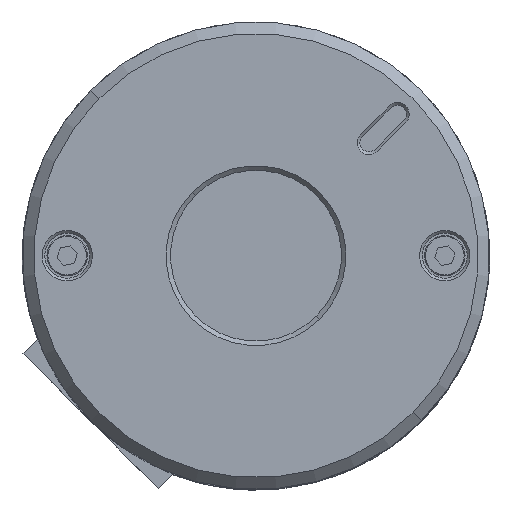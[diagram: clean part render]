
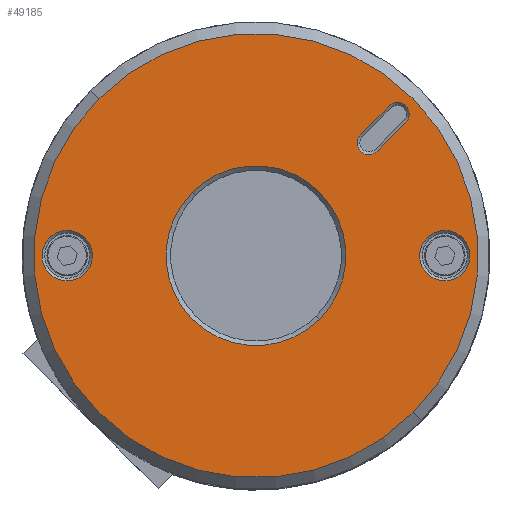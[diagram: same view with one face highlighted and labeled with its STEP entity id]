
A CAD part, top view. The second image highlights one B-rep face of the part: STEP entity #49185.
In plain terms, the highlighted planar face has unit normal (0, 0, 1).
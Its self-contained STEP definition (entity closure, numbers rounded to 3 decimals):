
#144 = DIRECTION ( 'NONE',  ( 0., 0., 1. ) ) ;
#234 = CARTESIAN_POINT ( 'NONE',  ( 14.849, 14.849, 7. ) ) ;
#663 = DIRECTION ( 'NONE',  ( 1., 0., 0. ) ) ;
#3765 = FACE_BOUND ( 'NONE', #18397, .T. ) ;
#4075 = ORIENTED_EDGE ( 'NONE', *, *, #9260, .F. ) ;
#4224 = EDGE_CURVE ( 'NONE', #48806, #91213, #81613, .T. ) ;
#4430 = AXIS2_PLACEMENT_3D ( 'NONE', #234, #76058, #11133 ) ;
#6721 = CARTESIAN_POINT ( 'NONE',  ( -1.3, -17.75, 7. ) ) ;
#7554 = AXIS2_PLACEMENT_3D ( 'NONE', #107964, #43088, #118882 ) ;
#8181 = ORIENTED_EDGE ( 'NONE', *, *, #121877, .T. ) ;
#9056 = CARTESIAN_POINT ( 'NONE',  ( -17.649, -14.849, 7. ) ) ;
#9260 = EDGE_CURVE ( 'NONE', #107405, #131824, #48361, .T. ) ;
#9479 = CIRCLE ( 'NONE', #122824, 10. ) ;
#10587 = AXIS2_PLACEMENT_3D ( 'NONE', #46444, #122233, #57365 ) ;
#11133 = DIRECTION ( 'NONE',  ( 1., 0., 0. ) ) ;
#11294 = CARTESIAN_POINT ( 'NONE',  ( 10., 0., 7. ) ) ;
#15414 = CARTESIAN_POINT ( 'NONE',  ( 0., 0., 7. ) ) ;
#15610 = EDGE_LOOP ( 'NONE', ( #57133, #83372, #89330, #137739 ) ) ;
#17186 = CARTESIAN_POINT ( 'NONE',  ( 12.049, 14.849, 7. ) ) ;
#18397 = EDGE_LOOP ( 'NONE', ( #31910, #4075 ) ) ;
#20295 = EDGE_CURVE ( 'NONE', #91213, #119181, #105399, .T. ) ;
#21499 = ORIENTED_EDGE ( 'NONE', *, *, #70872, .F. ) ;
#24116 = EDGE_LOOP ( 'NONE', ( #8181, #136858 ) ) ;
#25258 = DIRECTION ( 'NONE',  ( 0., 0., 1. ) ) ;
#25647 = AXIS2_PLACEMENT_3D ( 'NONE', #110201, #45309, #121099 ) ;
#26171 = ORIENTED_EDGE ( 'NONE', *, *, #66256, .F. ) ;
#26361 = DIRECTION ( 'NONE',  ( 1., 0., 0. ) ) ;
#26446 = CARTESIAN_POINT ( 'NONE',  ( 1.3, -17.75, 7. ) ) ;
#30378 = DIRECTION ( 'NONE',  ( 0., 0., 1. ) ) ;
#31910 = ORIENTED_EDGE ( 'NONE', *, *, #43426, .F. ) ;
#32590 = FACE_BOUND ( 'NONE', #36267, .T. ) ;
#34940 = CARTESIAN_POINT ( 'NONE',  ( 0., 0., 7. ) ) ;
#36267 = EDGE_LOOP ( 'NONE', ( #111552, #26171 ) ) ;
#39402 = CARTESIAN_POINT ( 'NONE',  ( 24.7, 0., 7. ) ) ;
#40151 = DIRECTION ( 'NONE',  ( 0., 0., 1. ) ) ;
#40304 = CARTESIAN_POINT ( 'NONE',  ( -12.049, -14.849, 7. ) ) ;
#40671 = CARTESIAN_POINT ( 'NONE',  ( -1.3, -17.75, 7. ) ) ;
#43088 = DIRECTION ( 'NONE',  ( 0., 0., -1. ) ) ;
#43426 = EDGE_CURVE ( 'NONE', #131824, #107405, #121807, .T. ) ;
#44148 = AXIS2_PLACEMENT_3D ( 'NONE', #130433, #65553, #663 ) ;
#44163 = VERTEX_POINT ( 'NONE', #40304 ) ;
#44351 = VECTOR ( 'NONE', #82534, 1000. ) ;
#45309 = DIRECTION ( 'NONE',  ( 0., 0., -1. ) ) ;
#45762 = DIRECTION ( 'NONE',  ( 1., 0., 0. ) ) ;
#45931 = VERTEX_POINT ( 'NONE', #39402 ) ;
#46444 = CARTESIAN_POINT ( 'NONE',  ( -14.849, -14.849, 7. ) ) ;
#47469 = CIRCLE ( 'NONE', #44148, 2.8 ) ;
#48361 = CIRCLE ( 'NONE', #63168, 2.8 ) ;
#48806 = VERTEX_POINT ( 'NONE', #75449 ) ;
#49185 = ADVANCED_FACE ( 'NONE', ( #119014, #32590, #3765, #115641, #86816 ), #138277, .T. ) ;
#49347 = VERTEX_POINT ( 'NONE', #11294 ) ;
#50036 = AXIS2_PLACEMENT_3D ( 'NONE', #90112, #25258, #100965 ) ;
#57133 = ORIENTED_EDGE ( 'NONE', *, *, #72718, .T. ) ;
#57365 = DIRECTION ( 'NONE',  ( 1., 0., 0. ) ) ;
#58277 = VERTEX_POINT ( 'NONE', #26446 ) ;
#62587 = EDGE_CURVE ( 'NONE', #90872, #49347, #9479, .T. ) ;
#63168 = AXIS2_PLACEMENT_3D ( 'NONE', #65053, #144, #75960 ) ;
#65053 = CARTESIAN_POINT ( 'NONE',  ( 14.849, 14.849, 7. ) ) ;
#65553 = DIRECTION ( 'NONE',  ( 0., 0., 1. ) ) ;
#66256 = EDGE_CURVE ( 'NONE', #94808, #44163, #128718, .T. ) ;
#66881 = VERTEX_POINT ( 'NONE', #112117 ) ;
#68010 = VECTOR ( 'NONE', #119894, 1000. ) ;
#70778 = AXIS2_PLACEMENT_3D ( 'NONE', #104945, #40151, #115893 ) ;
#70872 = EDGE_CURVE ( 'NONE', #49347, #90872, #134843, .T. ) ;
#72718 = EDGE_CURVE ( 'NONE', #119181, #58277, #132814, .T. ) ;
#75449 = CARTESIAN_POINT ( 'NONE',  ( 1.3, -22.25, 7. ) ) ;
#75960 = DIRECTION ( 'NONE',  ( 1., 0., 0. ) ) ;
#76058 = DIRECTION ( 'NONE',  ( 0., 0., 1. ) ) ;
#81613 = CIRCLE ( 'NONE', #25647, 1.3 ) ;
#82534 = DIRECTION ( 'NONE',  ( 0., 1., 0. ) ) ;
#83372 = ORIENTED_EDGE ( 'NONE', *, *, #106115, .T. ) ;
#86816 = FACE_BOUND ( 'NONE', #86988, .T. ) ;
#86988 = EDGE_LOOP ( 'NONE', ( #21499, #132214 ) ) ;
#89330 = ORIENTED_EDGE ( 'NONE', *, *, #4224, .T. ) ;
#89373 = CARTESIAN_POINT ( 'NONE',  ( -1.3, -22.25, 7. ) ) ;
#90112 = CARTESIAN_POINT ( 'NONE',  ( 0., 0., 7. ) ) ;
#90872 = VERTEX_POINT ( 'NONE', #115129 ) ;
#91213 = VERTEX_POINT ( 'NONE', #89373 ) ;
#91250 = DIRECTION ( 'NONE',  ( 0., 0., 1. ) ) ;
#91987 = AXIS2_PLACEMENT_3D ( 'NONE', #116560, #30378, #106074 ) ;
#93986 = AXIS2_PLACEMENT_3D ( 'NONE', #34940, #110657, #45762 ) ;
#94808 = VERTEX_POINT ( 'NONE', #9056 ) ;
#96845 = LINE ( 'NONE', #108971, #68010 ) ;
#99626 = CIRCLE ( 'NONE', #70778, 24.7 ) ;
#100965 = DIRECTION ( 'NONE',  ( 1., 0., 0. ) ) ;
#104945 = CARTESIAN_POINT ( 'NONE',  ( 0., 0., 7. ) ) ;
#105399 = LINE ( 'NONE', #6721, #44351 ) ;
#106074 = DIRECTION ( 'NONE',  ( 1., 0., 0. ) ) ;
#106115 = EDGE_CURVE ( 'NONE', #58277, #48806, #96845, .T. ) ;
#107108 = EDGE_CURVE ( 'NONE', #44163, #94808, #47469, .T. ) ;
#107405 = VERTEX_POINT ( 'NONE', #17186 ) ;
#107964 = CARTESIAN_POINT ( 'NONE',  ( 0., -17.75, 7. ) ) ;
#108971 = CARTESIAN_POINT ( 'NONE',  ( 1.3, -22.25, 7. ) ) ;
#110201 = CARTESIAN_POINT ( 'NONE',  ( 0., -22.25, 7. ) ) ;
#110615 = CIRCLE ( 'NONE', #93986, 24.7 ) ;
#110657 = DIRECTION ( 'NONE',  ( 0., 0., 1. ) ) ;
#111552 = ORIENTED_EDGE ( 'NONE', *, *, #107108, .F. ) ;
#112117 = CARTESIAN_POINT ( 'NONE',  ( -24.7, 0., 7. ) ) ;
#113655 = CARTESIAN_POINT ( 'NONE',  ( 17.649, 14.849, 7. ) ) ;
#115129 = CARTESIAN_POINT ( 'NONE',  ( -10., 0., 7. ) ) ;
#115641 = FACE_OUTER_BOUND ( 'NONE', #24116, .T. ) ;
#115893 = DIRECTION ( 'NONE',  ( 1., 0., 0. ) ) ;
#116560 = CARTESIAN_POINT ( 'NONE',  ( 0., 0., 7. ) ) ;
#117938 = EDGE_CURVE ( 'NONE', #45931, #66881, #110615, .T. ) ;
#118882 = DIRECTION ( 'NONE',  ( 1., 0., 0. ) ) ;
#119014 = FACE_BOUND ( 'NONE', #15610, .T. ) ;
#119181 = VERTEX_POINT ( 'NONE', #40671 ) ;
#119894 = DIRECTION ( 'NONE',  ( 0., -1., 0. ) ) ;
#121099 = DIRECTION ( 'NONE',  ( 1., 0., 0. ) ) ;
#121807 = CIRCLE ( 'NONE', #4430, 2.8 ) ;
#121877 = EDGE_CURVE ( 'NONE', #66881, #45931, #99626, .T. ) ;
#122233 = DIRECTION ( 'NONE',  ( 0., 0., 1. ) ) ;
#122824 = AXIS2_PLACEMENT_3D ( 'NONE', #15414, #91250, #26361 ) ;
#128718 = CIRCLE ( 'NONE', #10587, 2.8 ) ;
#130433 = CARTESIAN_POINT ( 'NONE',  ( -14.849, -14.849, 7. ) ) ;
#131824 = VERTEX_POINT ( 'NONE', #113655 ) ;
#132214 = ORIENTED_EDGE ( 'NONE', *, *, #62587, .F. ) ;
#132814 = CIRCLE ( 'NONE', #7554, 1.3 ) ;
#134843 = CIRCLE ( 'NONE', #50036, 10. ) ;
#136858 = ORIENTED_EDGE ( 'NONE', *, *, #117938, .T. ) ;
#137739 = ORIENTED_EDGE ( 'NONE', *, *, #20295, .T. ) ;
#138277 = PLANE ( 'NONE',  #91987 ) ;
